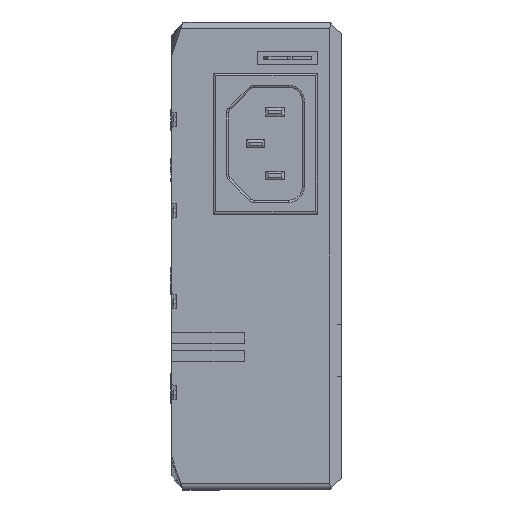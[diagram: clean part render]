
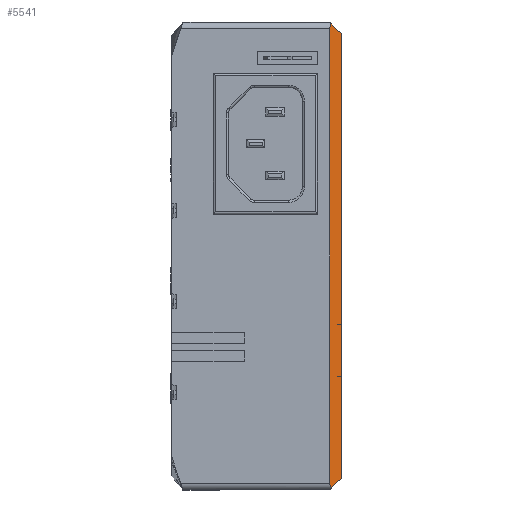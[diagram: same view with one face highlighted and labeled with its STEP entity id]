
A CAD part, left-side view. The second image highlights one B-rep face of the part: STEP entity #5541.
In plain terms, the highlighted planar face has unit normal (-0.707, -0.707, 0).
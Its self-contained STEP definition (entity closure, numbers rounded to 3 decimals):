
#257 = CARTESIAN_POINT ( 'NONE',  ( 0., 2.5, -1.5 ) ) ;
#303 = CARTESIAN_POINT ( 'NONE',  ( 2.5, 0., 0. ) ) ;
#635 = EDGE_CURVE ( 'NONE', #16505, #9533, #5838, .T. ) ;
#879 = ORIENTED_EDGE ( 'NONE', *, *, #8415, .T. ) ;
#1026 = VECTOR ( 'NONE', #12500, 1000. ) ;
#1447 = VERTEX_POINT ( 'NONE', #20835 ) ;
#1506 = CARTESIAN_POINT ( 'NONE',  ( 0.154, 2.346, -102.276 ) ) ;
#1767 = LINE ( 'NONE', #20012, #19681 ) ;
#1783 = VERTEX_POINT ( 'NONE', #16655 ) ;
#1908 = ORIENTED_EDGE ( 'NONE', *, *, #5978, .F. ) ;
#2029 = EDGE_LOOP ( 'NONE', ( #879, #7031, #16673, #17957, #21960, #12344, #22132, #1908 ) ) ;
#2113 = DIRECTION ( 'NONE',  ( 0., 0., -1. ) ) ;
#2721 = CARTESIAN_POINT ( 'NONE',  ( 0., 2.5, -103. ) ) ;
#2861 = CARTESIAN_POINT ( 'NONE',  ( 0., 2.5, -101.5 ) ) ;
#2886 = DIRECTION ( 'NONE',  ( 0., 0., -1. ) ) ;
#4519 = DIRECTION ( 'NONE',  ( 0.707, 0.707, 0. ) ) ;
#5046 = CARTESIAN_POINT ( 'NONE',  ( 0., 2.5, -1.097 ) ) ;
#5541 = ADVANCED_FACE ( 'NONE', ( #10994 ), #13449, .F. ) ;
#5574 = CARTESIAN_POINT ( 'NONE',  ( 2.5, 0., -66.5 ) ) ;
#5651 = LINE ( 'NONE', #303, #14026 ) ;
#5838 = LINE ( 'NONE', #7116, #1026 ) ;
#5978 = EDGE_CURVE ( 'NONE', #13986, #1783, #6083, .T. ) ;
#6083 = LINE ( 'NONE', #13625, #10849 ) ;
#7031 = ORIENTED_EDGE ( 'NONE', *, *, #15100, .T. ) ;
#7116 = CARTESIAN_POINT ( 'NONE',  ( 0., 2.5, -103. ) ) ;
#7292 = VERTEX_POINT ( 'NONE', #7763 ) ;
#7763 = CARTESIAN_POINT ( 'NONE',  ( 0.439, 2.061, -102.561 ) ) ;
#8111 = EDGE_CURVE ( 'NONE', #16505, #7292, #21617, .T. ) ;
#8415 = EDGE_CURVE ( 'NONE', #13986, #9763, #16355, .T. ) ;
#9533 = VERTEX_POINT ( 'NONE', #257 ) ;
#9763 = VERTEX_POINT ( 'NONE', #9977 ) ;
#9977 = CARTESIAN_POINT ( 'NONE',  ( 0.439, 2.061, -0.439 ) ) ;
#10117 = EDGE_CURVE ( 'NONE', #1783, #1447, #19339, .T. ) ;
#10155 = EDGE_CURVE ( 'NONE', #1447, #16254, #5651, .T. ) ;
#10849 = VECTOR ( 'NONE', #2886, 1000. ) ;
#10994 = FACE_OUTER_BOUND ( 'NONE', #2029, .T. ) ;
#11122 = DIRECTION ( 'NONE',  ( -0.577, 0.577, -0.577 ) ) ;
#12183 = CARTESIAN_POINT ( 'NONE',  ( 0.439, 2.061, -0.439 ) ) ;
#12334 = AXIS2_PLACEMENT_3D ( 'NONE', #2721, #4519, #17026 ) ;
#12344 = ORIENTED_EDGE ( 'NONE', *, *, #10155, .F. ) ;
#12500 = DIRECTION ( 'NONE',  ( 0., 0., 1. ) ) ;
#12757 = CARTESIAN_POINT ( 'NONE',  ( 2.5, 0., -2.5 ) ) ;
#12786 = DIRECTION ( 'NONE',  ( 0., 0., -1. ) ) ;
#13449 = PLANE ( 'NONE',  #12334 ) ;
#13625 = CARTESIAN_POINT ( 'NONE',  ( 2.5, 0., 0. ) ) ;
#13986 = VERTEX_POINT ( 'NONE', #12757 ) ;
#14018 = CARTESIAN_POINT ( 'NONE',  ( 0.439, 2.061, -102.561 ) ) ;
#14026 = VECTOR ( 'NONE', #2113, 1000. ) ;
#14733 = EDGE_CURVE ( 'NONE', #16254, #7292, #1767, .T. ) ;
#14977 = CARTESIAN_POINT ( 'NONE',  ( 0., 2.5, 0. ) ) ;
#15100 = EDGE_CURVE ( 'NONE', #9763, #9533, #19386, .T. ) ;
#15704 = VECTOR ( 'NONE', #12786, 1000. ) ;
#15782 = VECTOR ( 'NONE', #16765, 1000. ) ;
#16254 = VERTEX_POINT ( 'NONE', #16341 ) ;
#16341 = CARTESIAN_POINT ( 'NONE',  ( 2.5, 0., -100.5 ) ) ;
#16355 = LINE ( 'NONE', #14977, #15782 ) ;
#16505 = VERTEX_POINT ( 'NONE', #2861 ) ;
#16655 = CARTESIAN_POINT ( 'NONE',  ( 2.5, 0., -66.5 ) ) ;
#16673 = ORIENTED_EDGE ( 'NONE', *, *, #635, .F. ) ;
#16765 = DIRECTION ( 'NONE',  ( -0.577, 0.577, 0.577 ) ) ;
#17026 = DIRECTION ( 'NONE',  ( -0.707, 0.707, 0. ) ) ;
#17473 = CARTESIAN_POINT ( 'NONE',  ( 0., 2.5, -101.903 ) ) ;
#17561 = CARTESIAN_POINT ( 'NONE',  ( 0., 2.5, -1.5 ) ) ;
#17957 = ORIENTED_EDGE ( 'NONE', *, *, #8111, .T. ) ;
#19339 = LINE ( 'NONE', #5574, #15704 ) ;
#19386 =( BOUNDED_CURVE ( )  B_SPLINE_CURVE ( 3, ( #12183, #21073, #5046, #17561 ),
 .UNSPECIFIED., .F., .T. ) 
 B_SPLINE_CURVE_WITH_KNOTS ( ( 4, 4 ),
 ( 2.356, 3.142 ),
 .UNSPECIFIED. ) 
 CURVE ( )  GEOMETRIC_REPRESENTATION_ITEM ( )  RATIONAL_B_SPLINE_CURVE ( ( 1., 0.949, 0.949, 1. ) ) 
 REPRESENTATION_ITEM ( '' )  );
#19681 = VECTOR ( 'NONE', #11122, 1000. ) ;
#20012 = CARTESIAN_POINT ( 'NONE',  ( 0., 2.5, -103. ) ) ;
#20835 = CARTESIAN_POINT ( 'NONE',  ( 2.5, 0., -78. ) ) ;
#21073 = CARTESIAN_POINT ( 'NONE',  ( 0.154, 2.346, -0.724 ) ) ;
#21139 = CARTESIAN_POINT ( 'NONE',  ( 0., 2.5, -101.5 ) ) ;
#21617 =( BOUNDED_CURVE ( )  B_SPLINE_CURVE ( 3, ( #21139, #17473, #1506, #14018 ),
 .UNSPECIFIED., .F., .F. ) 
 B_SPLINE_CURVE_WITH_KNOTS ( ( 4, 4 ),
 ( 3.142, 3.927 ),
 .UNSPECIFIED. ) 
 CURVE ( )  GEOMETRIC_REPRESENTATION_ITEM ( )  RATIONAL_B_SPLINE_CURVE ( ( 1., 0.949, 0.949, 1. ) ) 
 REPRESENTATION_ITEM ( '' )  );
#21960 = ORIENTED_EDGE ( 'NONE', *, *, #14733, .F. ) ;
#22132 = ORIENTED_EDGE ( 'NONE', *, *, #10117, .F. ) ;
